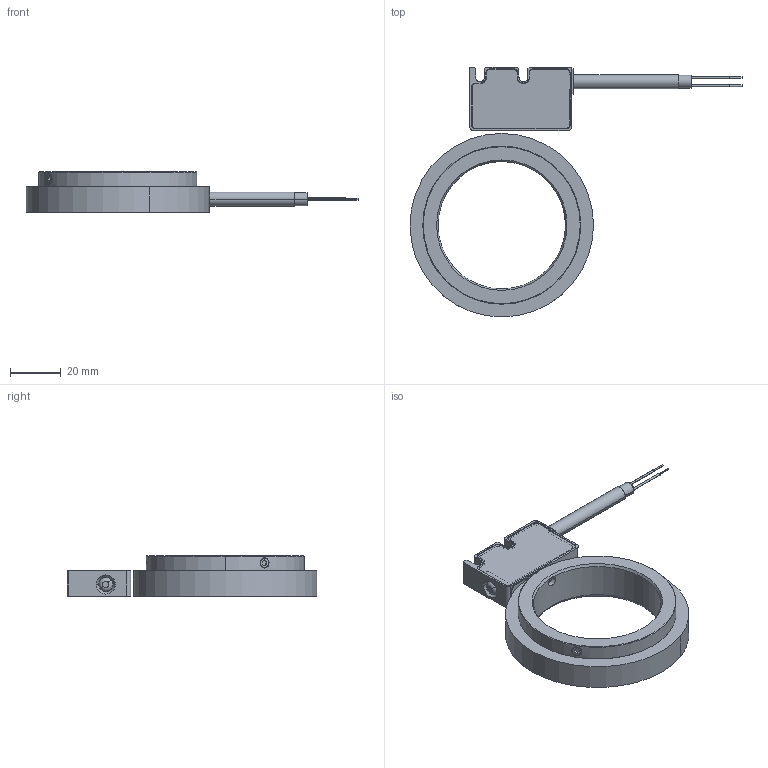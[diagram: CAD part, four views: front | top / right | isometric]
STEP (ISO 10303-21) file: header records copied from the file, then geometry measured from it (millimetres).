
FILE_DESCRIPTION (( 'STEP AP214' ), '1' );
FILE_NAME ('Z_RLI20_Lagerlose Drehgeber.STEP', '2016-12-14T13:38:09', ( '' ), ( '' ), 'SwSTEP 2.0', 'SolidWorks 2013', '' );
FILE_SCHEMA (( 'AUTOMOTIVE_DESIGN' ));
Length unit declared in the file: millimetre
Products named in the file (1): Z_RLI20_Lagerlose Drehgeber
Bounding box: 130.25 x 98.06 x 16.05 mm (x, y, z)
Surface area: 19911.6 mm2 (no closed solid volume)
Topology: 0 solids, 18 shells, 194 faces, 579 edges, 398 vertices
Faces by surface type: plane 84, cylinder 80, cone 24, torus 4, sphere 2
Entity records: 8860 total; most frequent: CARTESIAN_POINT 1421, DIRECTION 1174, ORIENTED_EDGE 969, EDGE_CURVE 577, AXIS2_PLACEMENT_3D 421, VERTEX_POINT 398, VECTOR 332, LINE 332
